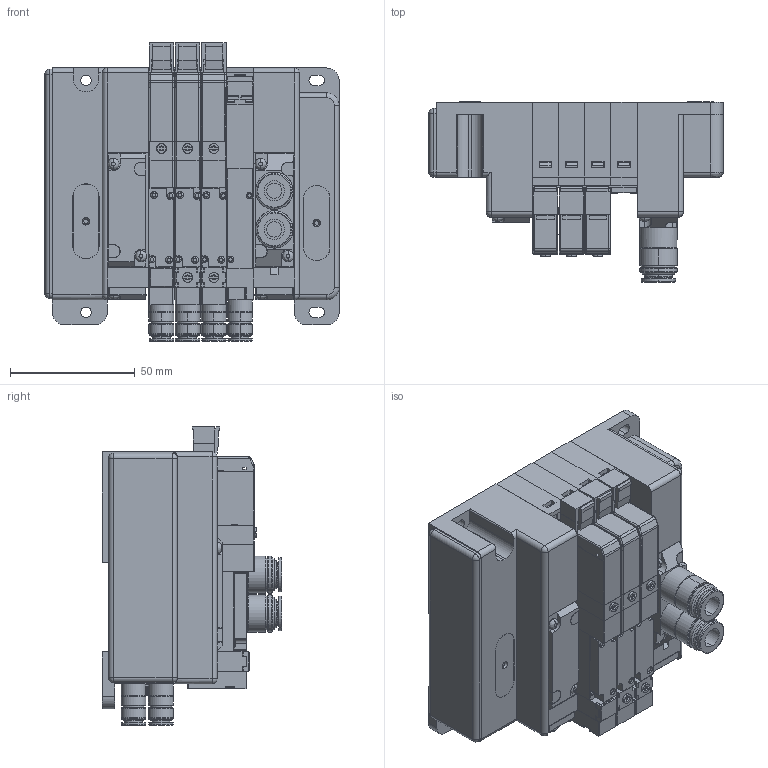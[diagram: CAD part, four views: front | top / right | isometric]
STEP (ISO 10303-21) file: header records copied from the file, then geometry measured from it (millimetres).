
FILE_DESCRIPTION( (''), '2;1');
FILE_NAME ('CVICAD02.9768.F10M4XNJ-JR_10112.stp','2020-08-31T10:40:12',(''),(''),'spGate 12.6.6','','');
FILE_SCHEMA (('AUTOMOTIVE_DESIGN'));
Length unit declared in the file: millimetre
Products named in the file (18): Assembly; F10_配管LASSY_ダイレクト; キャップ_DINねじ穴用; F10_EndCover; F10-PP; F10ZX_ValveBaseAssy; F10_配管RAssy_ダイレクト; F10XBPP; F10_Adptor; F_3PortBody; F10_Cap; F10_SwitchBlock1; F10T_Body; F_Connector-PS; F10_A1; F10_SwitchBlock; F10_VJ; F10_Port-PJ
Assembly tree (39 placements, depth 2):
  Assembly
    F10_配管LASSY_ダイレクト
    キャップ_DINねじ穴用  x2
    F10_EndCover
    F10-PP  x3
    F10ZX_ValveBaseAssy  x4
    F10_配管RAssy_ダイレクト
    F10XBPP
    F10_Adptor  x3
    F_3PortBody  x3
    F10_Cap  x3
    F10_SwitchBlock1
    F10T_Body  x3
    F_Connector-PS  x3
    F10_A1  x3
    F10_SwitchBlock  x2
    F10_VJ  x4
    F10_Port-PJ
Bounding box: 118 x 72.1 x 119.5 mm (x, y, z)
Volume: 350964.8 mm3; surface area: 142451.5 mm2
Topology: 38 solids, 39 shells, 3460 faces, 9241 edges, 6424 vertices
Faces by surface type: plane 2261, cylinder 873, bspline 312, sphere 14
Entity records: 78720 total; most frequent: CARTESIAN_POINT 10907, ORIENTED_EDGE 7851, DIRECTION 7023, COLOUR_RGB 5436, PRESENTATION_STYLE_ASSIGNMENT 5436, STYLED_ITEM 5436, EDGE_CURVE 3927, DRAUGHTING_PRE_DEFINED_CURVE_FONT 3927
